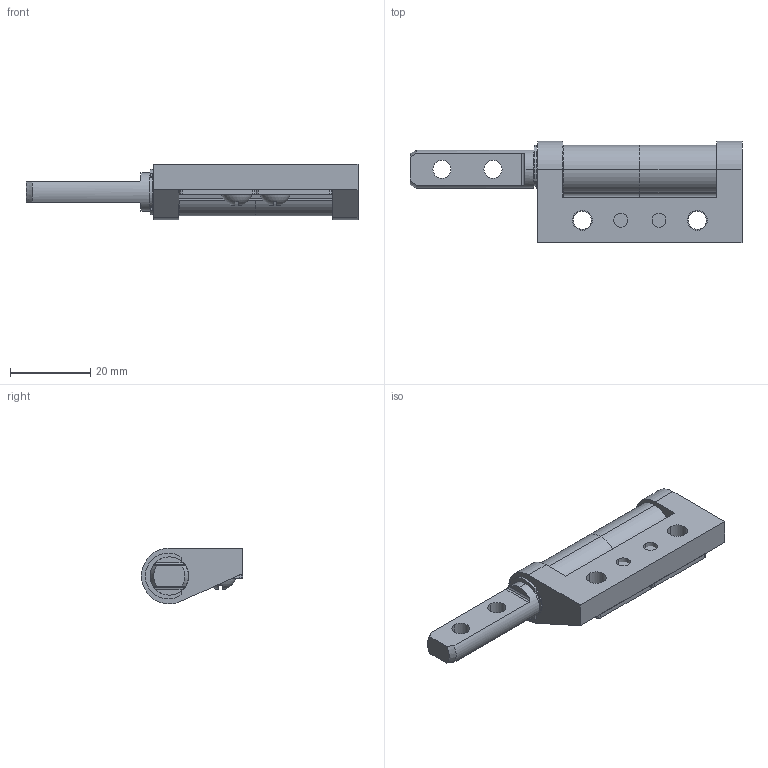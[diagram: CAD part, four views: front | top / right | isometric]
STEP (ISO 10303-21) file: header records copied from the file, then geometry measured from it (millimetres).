
FILE_DESCRIPTION(('STEP AP214'),'1');
FILE_NAME('C:/Users/HAN/Desktop/3000-0401-HNG R Rev 0_0.stp','2012-12-04T03:02:40',(' '),(' '),'Spatial InterOp 3D',' ',' ');
FILE_SCHEMA(('automotive_design'));
Length unit declared in the file: inch
Products named in the file (7): 3000-0001-BND Rev 0_0; 3000-0001-SHA Rev 0_0; 3000-0001-HOU Rev 0_0; Snap Ring 2000-37; Screw : Round - 0.164 x 0.25
Bounding box: 82.55 x 25.17 x 13.87 mm (x, y, z)
Volume: 11991.3 mm3; surface area: 10176.1 mm2
Topology: 7 solids, 7 shells, 192 faces, 504 edges, 330 vertices
Faces by surface type: plane 100, cylinder 80, cone 8, sphere 4
Entity records: 7836 total; most frequent: CARTESIAN_POINT 1261, DIRECTION 1080, ORIENTED_EDGE 1008, EDGE_CURVE 504, AXIS2_PLACEMENT_3D 397, VERTEX_POINT 330, LINE 286, VECTOR 286
